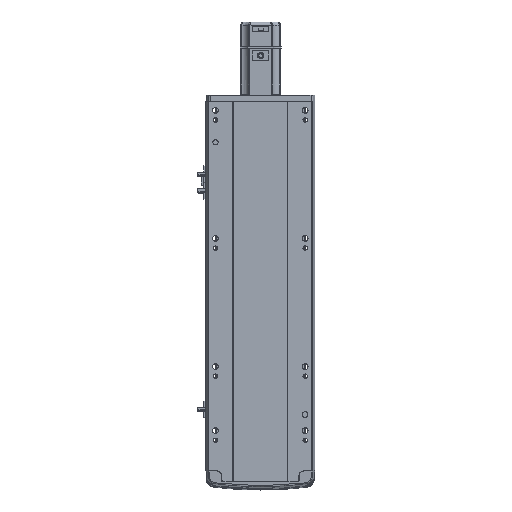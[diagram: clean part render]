
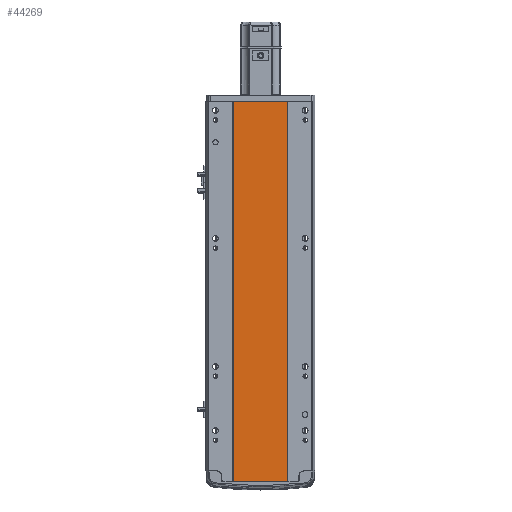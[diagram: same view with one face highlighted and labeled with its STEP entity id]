
A CAD part, front view. The second image highlights one B-rep face of the part: STEP entity #44269.
In plain terms, the highlighted planar face has unit normal (0, -1, 0).
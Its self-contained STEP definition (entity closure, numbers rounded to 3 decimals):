
#210 = LINE ( 'NONE', #27496, #8878 ) ;
#1767 = CARTESIAN_POINT ( 'NONE',  ( -41.791, 1., 0. ) ) ;
#4883 = CARTESIAN_POINT ( 'NONE',  ( -41.791, 1., 593.5 ) ) ;
#5955 = VERTEX_POINT ( 'NONE', #38886 ) ;
#8138 = VERTEX_POINT ( 'NONE', #1767 ) ;
#8878 = VECTOR ( 'NONE', #38487, 1000. ) ;
#12177 = VECTOR ( 'NONE', #12241, 1000. ) ;
#12241 = DIRECTION ( 'NONE',  ( 0., 0., -1. ) ) ;
#12693 = CARTESIAN_POINT ( 'NONE',  ( -41.791, 1., 593.5 ) ) ;
#12935 = PLANE ( 'NONE',  #31632 ) ;
#13577 = EDGE_CURVE ( 'NONE', #5955, #38860, #35147, .T. ) ;
#16687 = CARTESIAN_POINT ( 'NONE',  ( 0., 0.999, 593.5 ) ) ;
#17171 = DIRECTION ( 'NONE',  ( -1., 0., 0. ) ) ;
#18953 = EDGE_CURVE ( 'NONE', #37944, #5955, #210, .T. ) ;
#21580 = DIRECTION ( 'NONE',  ( 1., 0., 0. ) ) ;
#21915 = CARTESIAN_POINT ( 'NONE',  ( 0., 0.999, 0. ) ) ;
#24149 = ORIENTED_EDGE ( 'NONE', *, *, #18953, .F. ) ;
#26269 = CARTESIAN_POINT ( 'NONE',  ( 41.793, 0.998, 593.5 ) ) ;
#27496 = CARTESIAN_POINT ( 'NONE',  ( 0., 0.999, 593.5 ) ) ;
#28830 = VECTOR ( 'NONE', #21580, 1000. ) ;
#29099 = EDGE_CURVE ( 'NONE', #8138, #38860, #39955, .T. ) ;
#31632 = AXIS2_PLACEMENT_3D ( 'NONE', #16687, #42871, #17171 ) ;
#31644 = VECTOR ( 'NONE', #41795, 1000. ) ;
#34236 = CARTESIAN_POINT ( 'NONE',  ( 41.793, 0.998, 0. ) ) ;
#35147 = LINE ( 'NONE', #26269, #31644 ) ;
#35613 = LINE ( 'NONE', #4883, #12177 ) ;
#36750 = FACE_OUTER_BOUND ( 'NONE', #48034, .T. ) ;
#37944 = VERTEX_POINT ( 'NONE', #12693 ) ;
#38487 = DIRECTION ( 'NONE',  ( 1., 0., 0. ) ) ;
#38860 = VERTEX_POINT ( 'NONE', #34236 ) ;
#38886 = CARTESIAN_POINT ( 'NONE',  ( 41.793, 0.998, 593.5 ) ) ;
#39955 = LINE ( 'NONE', #21915, #28830 ) ;
#40064 = ORIENTED_EDGE ( 'NONE', *, *, #43719, .T. ) ;
#41795 = DIRECTION ( 'NONE',  ( 0., 0., -1. ) ) ;
#42871 = DIRECTION ( 'NONE',  ( 0., 1., 0. ) ) ;
#43719 = EDGE_CURVE ( 'NONE', #37944, #8138, #35613, .T. ) ;
#44269 = ADVANCED_FACE ( 'NONE', ( #36750 ), #12935, .F. ) ;
#45631 = ORIENTED_EDGE ( 'NONE', *, *, #13577, .F. ) ;
#46623 = ORIENTED_EDGE ( 'NONE', *, *, #29099, .T. ) ;
#48034 = EDGE_LOOP ( 'NONE', ( #46623, #45631, #24149, #40064 ) ) ;
